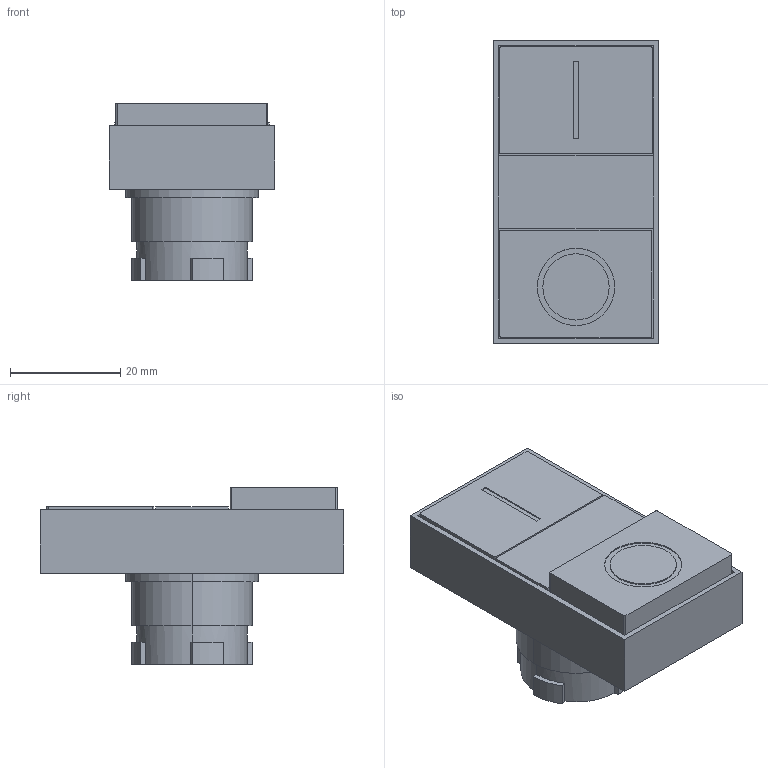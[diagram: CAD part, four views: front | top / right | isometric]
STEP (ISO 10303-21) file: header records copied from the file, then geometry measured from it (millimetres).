
FILE_DESCRIPTION (( 'STEP AP214' ), '1' );
FILE_NAME ('3D 斁麧錪 MTB2-BW84.STEP', '2017-04-21T06:42:14', ( 'adm' ), ( 'MICROSOFT' ), 'SwSTEP 2.0', 'SolidWorks 2011', '' );
FILE_SCHEMA (( 'AUTOMOTIVE_DESIGN' ));
Length unit declared in the file: millimetre
Products named in the file (1): 3D 斁麧錪 MTB2-BW84
Bounding box: 30 x 55 x 32 mm (x, y, z)
Volume: 22459.8 mm3; surface area: 11011.1 mm2
Topology: 1 solids, 1 shells, 119 faces, 304 edges, 201 vertices
Faces by surface type: plane 82, cylinder 34, cone 3
Entity records: 4958 total; most frequent: CARTESIAN_POINT 649, DIRECTION 625, ORIENTED_EDGE 608, EDGE_CURVE 304, AXIS2_PLACEMENT_3D 209, LINE 207, VECTOR 207, VERTEX_POINT 201
